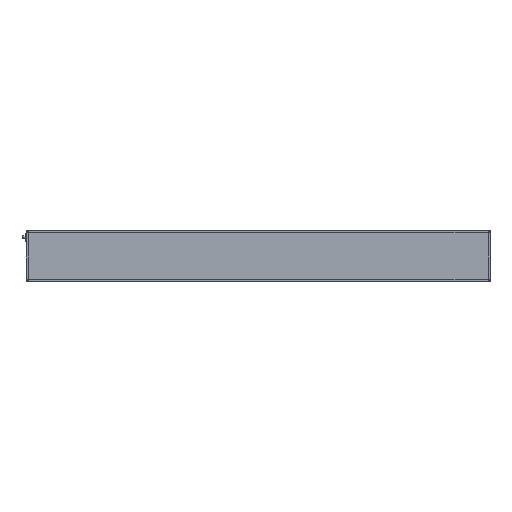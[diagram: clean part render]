
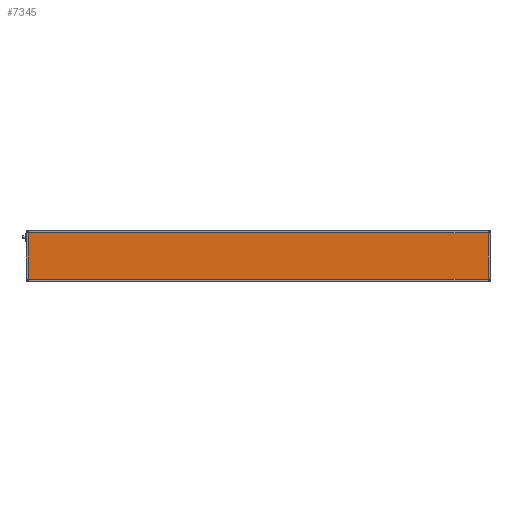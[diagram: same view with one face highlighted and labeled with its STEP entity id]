
A CAD part, top view. The second image highlights one B-rep face of the part: STEP entity #7345.
In plain terms, the highlighted planar face has unit normal (0, 0, 1).
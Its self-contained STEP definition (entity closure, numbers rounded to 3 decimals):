
#55 = DIRECTION ( 'NONE',  ( 0., 0., -1. ) ) ;
#170 = LINE ( 'NONE', #12285, #7567 ) ;
#233 = DIRECTION ( 'NONE',  ( -1., 0., 0. ) ) ;
#318 = CARTESIAN_POINT ( 'NONE',  ( 1896., 196., 41.85 ) ) ;
#2262 = LINE ( 'NONE', #15850, #3526 ) ;
#2342 = DIRECTION ( 'NONE',  ( -1., 0., 0. ) ) ;
#2384 = DIRECTION ( 'NONE',  ( 0., -1., 0. ) ) ;
#3111 = CARTESIAN_POINT ( 'NONE',  ( 1896., 0., 41.85 ) ) ;
#3526 = VECTOR ( 'NONE', #2342, 1000. ) ;
#3551 = AXIS2_PLACEMENT_3D ( 'NONE', #12171, #55, #233 ) ;
#4245 = EDGE_CURVE ( 'NONE', #4788, #12088, #2262, .T. ) ;
#4458 = VECTOR ( 'NONE', #12427, 1000. ) ;
#4533 = ORIENTED_EDGE ( 'NONE', *, *, #13599, .T. ) ;
#4788 = VERTEX_POINT ( 'NONE', #318 ) ;
#5561 = PLANE ( 'NONE',  #3551 ) ;
#5734 = VERTEX_POINT ( 'NONE', #11119 ) ;
#6465 = EDGE_CURVE ( 'NONE', #12088, #5734, #11798, .T. ) ;
#7022 = ORIENTED_EDGE ( 'NONE', *, *, #6465, .T. ) ;
#7127 = LINE ( 'NONE', #3111, #4458 ) ;
#7151 = DIRECTION ( 'NONE',  ( 1., 0., 0. ) ) ;
#7345 = ADVANCED_FACE ( 'NONE', ( #8336 ), #5561, .F. ) ;
#7567 = VECTOR ( 'NONE', #7151, 1000. ) ;
#7973 = CARTESIAN_POINT ( 'NONE',  ( 4., 0., 41.85 ) ) ;
#8336 = FACE_OUTER_BOUND ( 'NONE', #14827, .T. ) ;
#9779 = VERTEX_POINT ( 'NONE', #13369 ) ;
#10774 = VECTOR ( 'NONE', #2384, 1000. ) ;
#11119 = CARTESIAN_POINT ( 'NONE',  ( 4., 4., 41.85 ) ) ;
#11798 = LINE ( 'NONE', #7973, #10774 ) ;
#12088 = VERTEX_POINT ( 'NONE', #15618 ) ;
#12171 = CARTESIAN_POINT ( 'NONE',  ( 0., 0., 41.85 ) ) ;
#12285 = CARTESIAN_POINT ( 'NONE',  ( 0., 4., 41.85 ) ) ;
#12427 = DIRECTION ( 'NONE',  ( 0., 1., 0. ) ) ;
#13029 = ORIENTED_EDGE ( 'NONE', *, *, #4245, .T. ) ;
#13369 = CARTESIAN_POINT ( 'NONE',  ( 1896., 4., 41.85 ) ) ;
#13599 = EDGE_CURVE ( 'NONE', #5734, #9779, #170, .T. ) ;
#13992 = EDGE_CURVE ( 'NONE', #9779, #4788, #7127, .T. ) ;
#14827 = EDGE_LOOP ( 'NONE', ( #15767, #13029, #7022, #4533 ) ) ;
#15618 = CARTESIAN_POINT ( 'NONE',  ( 4., 196., 41.85 ) ) ;
#15767 = ORIENTED_EDGE ( 'NONE', *, *, #13992, .T. ) ;
#15850 = CARTESIAN_POINT ( 'NONE',  ( 0., 196., 41.85 ) ) ;
